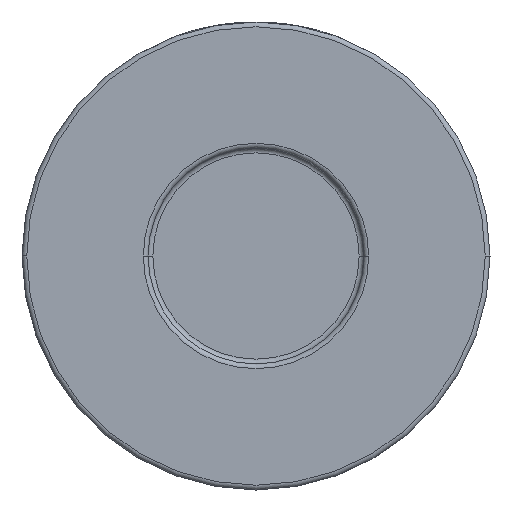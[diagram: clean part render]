
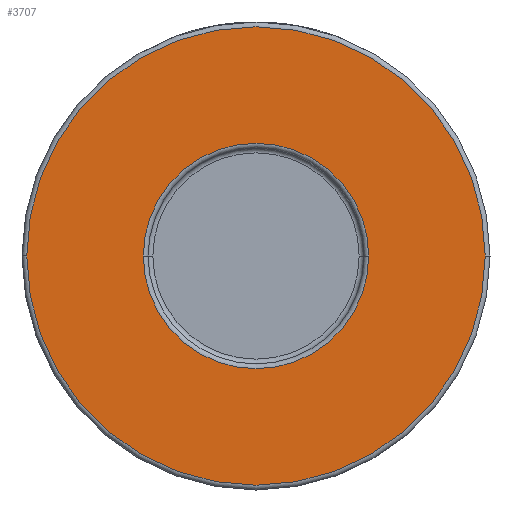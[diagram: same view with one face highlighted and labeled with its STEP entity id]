
A CAD part, front view. The second image highlights one B-rep face of the part: STEP entity #3707.
In plain terms, the highlighted planar face has unit normal (0, -1, 0).
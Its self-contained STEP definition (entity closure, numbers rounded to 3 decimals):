
#3 = CARTESIAN_POINT ( 'NONE',  ( 0., -30., 0. ) ) ;
#200 = ORIENTED_EDGE ( 'NONE', *, *, #2700, .T. ) ;
#224 = ORIENTED_EDGE ( 'NONE', *, *, #731, .T. ) ;
#276 = EDGE_LOOP ( 'NONE', ( #4361, #200 ) ) ;
#442 = ORIENTED_EDGE ( 'NONE', *, *, #1499, .T. ) ;
#552 = AXIS2_PLACEMENT_3D ( 'NONE', #3, #1116, #1096 ) ;
#613 = CARTESIAN_POINT ( 'NONE',  ( -48., -30., 0. ) ) ;
#685 = AXIS2_PLACEMENT_3D ( 'NONE', #1072, #4511, #4231 ) ;
#692 = CARTESIAN_POINT ( 'NONE',  ( 0., -30., 0. ) ) ;
#708 = CARTESIAN_POINT ( 'NONE',  ( 48., -30., 0. ) ) ;
#728 = DIRECTION ( 'NONE',  ( 0., -1., 0. ) ) ;
#731 = EDGE_CURVE ( 'NONE', #4120, #3195, #2565, .T. ) ;
#882 = DIRECTION ( 'NONE',  ( 1., 0., 0. ) ) ;
#1072 = CARTESIAN_POINT ( 'NONE',  ( 0., -30., 0. ) ) ;
#1096 = DIRECTION ( 'NONE',  ( 1., 0., 0. ) ) ;
#1116 = DIRECTION ( 'NONE',  ( 0., 1., 0. ) ) ;
#1377 = CARTESIAN_POINT ( 'NONE',  ( -23.6, -30., 0. ) ) ;
#1443 = DIRECTION ( 'NONE',  ( 1., 0., 0. ) ) ;
#1464 = PLANE ( 'NONE',  #2973 ) ;
#1467 = AXIS2_PLACEMENT_3D ( 'NONE', #692, #2117, #2790 ) ;
#1499 = EDGE_CURVE ( 'NONE', #3195, #4120, #4407, .T. ) ;
#1840 = CARTESIAN_POINT ( 'NONE',  ( 49., -30., 0. ) ) ;
#1912 = CIRCLE ( 'NONE', #1467, 48. ) ;
#1978 = CARTESIAN_POINT ( 'NONE',  ( 0., -30., 0. ) ) ;
#2002 = DIRECTION ( 'NONE',  ( 0., 1., 0. ) ) ;
#2117 = DIRECTION ( 'NONE',  ( 0., -1., 0. ) ) ;
#2119 = EDGE_CURVE ( 'NONE', #3370, #2300, #1912, .T. ) ;
#2300 = VERTEX_POINT ( 'NONE', #613 ) ;
#2422 = AXIS2_PLACEMENT_3D ( 'NONE', #1978, #2002, #882 ) ;
#2548 = CIRCLE ( 'NONE', #685, 48. ) ;
#2565 = CIRCLE ( 'NONE', #552, 23.6 ) ;
#2700 = EDGE_CURVE ( 'NONE', #2300, #3370, #2548, .T. ) ;
#2790 = DIRECTION ( 'NONE',  ( 1., 0., 0. ) ) ;
#2871 = FACE_OUTER_BOUND ( 'NONE', #276, .T. ) ;
#2973 = AXIS2_PLACEMENT_3D ( 'NONE', #1840, #728, #1443 ) ;
#3195 = VERTEX_POINT ( 'NONE', #1377 ) ;
#3212 = FACE_BOUND ( 'NONE', #4496, .T. ) ;
#3370 = VERTEX_POINT ( 'NONE', #708 ) ;
#3707 = ADVANCED_FACE ( 'NONE', ( #3212, #2871 ), #1464, .T. ) ;
#3896 = CARTESIAN_POINT ( 'NONE',  ( 23.6, -30., 0. ) ) ;
#4120 = VERTEX_POINT ( 'NONE', #3896 ) ;
#4231 = DIRECTION ( 'NONE',  ( 1., 0., 0. ) ) ;
#4361 = ORIENTED_EDGE ( 'NONE', *, *, #2119, .T. ) ;
#4407 = CIRCLE ( 'NONE', #2422, 23.6 ) ;
#4496 = EDGE_LOOP ( 'NONE', ( #224, #442 ) ) ;
#4511 = DIRECTION ( 'NONE',  ( 0., -1., 0. ) ) ;
